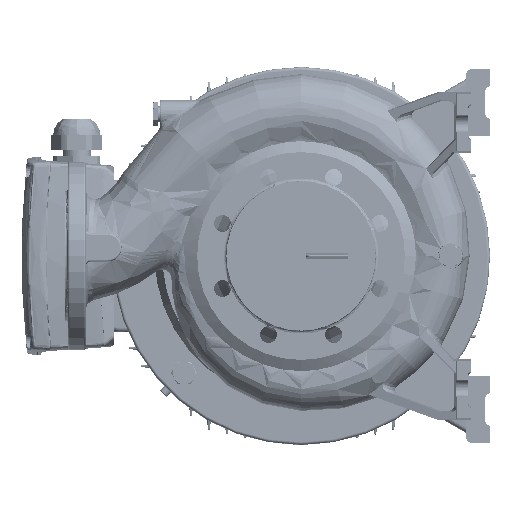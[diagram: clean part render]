
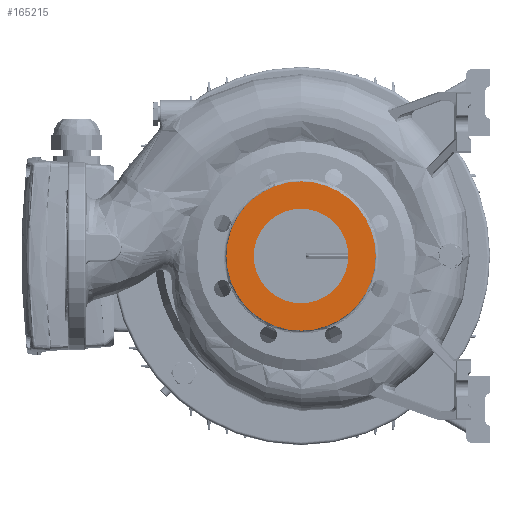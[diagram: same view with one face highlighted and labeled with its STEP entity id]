
A CAD part, left-side view. The second image highlights one B-rep face of the part: STEP entity #165215.
In plain terms, the highlighted planar face has unit normal (-1, 0, 0).
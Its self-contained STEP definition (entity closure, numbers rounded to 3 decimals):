
#8922 = CARTESIAN_POINT ( 'NONE',  ( -389., 0., 50. ) ) ;
#29992 = EDGE_LOOP ( 'NONE', ( #470037, #174831 ) ) ;
#32553 = DIRECTION ( 'NONE',  ( -1., 0., 0. ) ) ;
#43289 = EDGE_CURVE ( 'NONE', #176783, #518273, #391764, .T. ) ;
#49631 = AXIS2_PLACEMENT_3D ( 'NONE', #284693, #361687, #523585 ) ;
#52255 = DIRECTION ( 'NONE',  ( -1., 0., 0. ) ) ;
#60419 = VERTEX_POINT ( 'NONE', #380095 ) ;
#91735 = CARTESIAN_POINT ( 'NONE',  ( -389., 0., 0. ) ) ;
#106321 = VERTEX_POINT ( 'NONE', #166284 ) ;
#127664 = EDGE_CURVE ( 'NONE', #60419, #106321, #146989, .T. ) ;
#134803 = AXIS2_PLACEMENT_3D ( 'NONE', #140884, #265729, #507230 ) ;
#140884 = CARTESIAN_POINT ( 'NONE',  ( -389., 0., 0. ) ) ;
#146989 = CIRCLE ( 'NONE', #249056, 79. ) ;
#165215 = ADVANCED_FACE ( 'NONE', ( #428375, #226623 ), #436197, .T. ) ;
#166284 = CARTESIAN_POINT ( 'NONE',  ( -389., 0., 79. ) ) ;
#174831 = ORIENTED_EDGE ( 'NONE', *, *, #350610, .T. ) ;
#176783 = VERTEX_POINT ( 'NONE', #8922 ) ;
#213892 = DIRECTION ( 'NONE',  ( 0., 0., 1. ) ) ;
#226623 = FACE_BOUND ( 'NONE', #371300, .T. ) ;
#234473 = CARTESIAN_POINT ( 'NONE',  ( -389., 3.571, 0. ) ) ;
#249056 = AXIS2_PLACEMENT_3D ( 'NONE', #416095, #52255, #453314 ) ;
#265729 = DIRECTION ( 'NONE',  ( 1., 0., 0. ) ) ;
#271749 = DIRECTION ( 'NONE',  ( 0., 0., 1. ) ) ;
#284693 = CARTESIAN_POINT ( 'NONE',  ( -389., 0., 0. ) ) ;
#315225 = AXIS2_PLACEMENT_3D ( 'NONE', #91735, #336096, #213892 ) ;
#336096 = DIRECTION ( 'NONE',  ( 1., 0., 0. ) ) ;
#337843 = CIRCLE ( 'NONE', #49631, 79. ) ;
#350610 = EDGE_CURVE ( 'NONE', #106321, #60419, #337843, .T. ) ;
#361687 = DIRECTION ( 'NONE',  ( -1., 0., 0. ) ) ;
#371300 = EDGE_LOOP ( 'NONE', ( #437879, #420156 ) ) ;
#376179 = AXIS2_PLACEMENT_3D ( 'NONE', #234473, #32553, #271749 ) ;
#380095 = CARTESIAN_POINT ( 'NONE',  ( -389., 0., -79. ) ) ;
#391764 = CIRCLE ( 'NONE', #315225, 50. ) ;
#416095 = CARTESIAN_POINT ( 'NONE',  ( -389., 0., 0. ) ) ;
#419304 = EDGE_CURVE ( 'NONE', #518273, #176783, #423257, .T. ) ;
#420156 = ORIENTED_EDGE ( 'NONE', *, *, #43289, .T. ) ;
#423257 = CIRCLE ( 'NONE', #134803, 50. ) ;
#428375 = FACE_OUTER_BOUND ( 'NONE', #29992, .T. ) ;
#436197 = PLANE ( 'NONE',  #376179 ) ;
#437879 = ORIENTED_EDGE ( 'NONE', *, *, #419304, .T. ) ;
#453314 = DIRECTION ( 'NONE',  ( 0., 0., 1. ) ) ;
#468548 = CARTESIAN_POINT ( 'NONE',  ( -389., 0., -50. ) ) ;
#470037 = ORIENTED_EDGE ( 'NONE', *, *, #127664, .T. ) ;
#507230 = DIRECTION ( 'NONE',  ( 0., 0., 1. ) ) ;
#518273 = VERTEX_POINT ( 'NONE', #468548 ) ;
#523585 = DIRECTION ( 'NONE',  ( 0., 0., 1. ) ) ;
